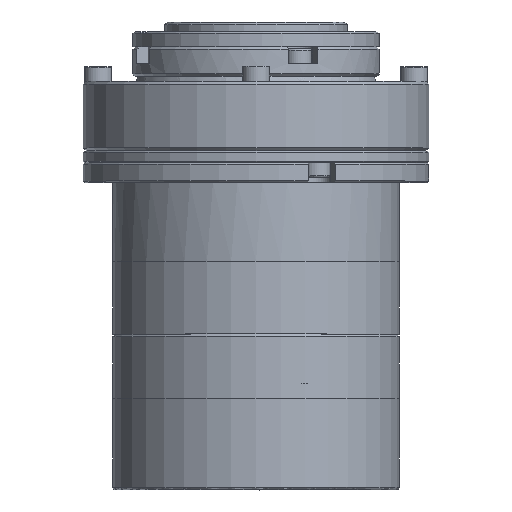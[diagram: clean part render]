
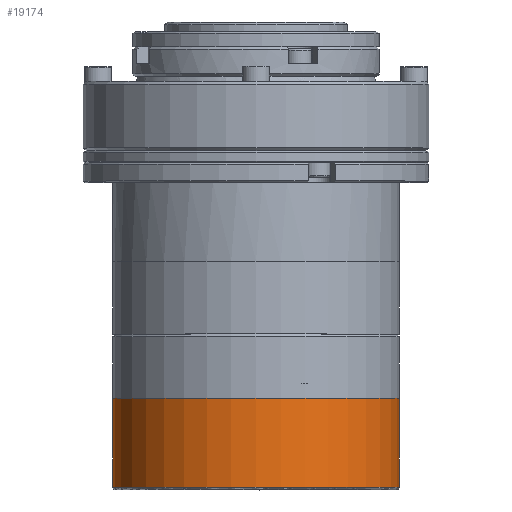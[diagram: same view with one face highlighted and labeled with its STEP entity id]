
A CAD part, top view. The second image highlights one B-rep face of the part: STEP entity #19174.
In plain terms, the highlighted cylindrical face has radius 29 mm (diameter 58 mm), a full revolution.
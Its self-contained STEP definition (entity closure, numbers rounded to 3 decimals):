
#127 = CARTESIAN_POINT ( 'NONE',  ( 0., 0., 21.794 ) ) ;
#3364 = DIRECTION ( 'NONE',  ( 0., 0., 1. ) ) ;
#3962 = DIRECTION ( 'NONE',  ( 0., 0., -1. ) ) ;
#4724 = DIRECTION ( 'NONE',  ( 1., 0., 0. ) ) ;
#5344 = EDGE_CURVE ( 'NONE', #7431, #7431, #10677, .T. ) ;
#5637 = DIRECTION ( 'NONE',  ( 1., 0., 0. ) ) ;
#5843 = CIRCLE ( 'NONE', #7404, 29. ) ;
#6166 = CYLINDRICAL_SURFACE ( 'NONE', #20087, 29. ) ;
#7404 = AXIS2_PLACEMENT_3D ( 'NONE', #18141, #3364, #5637 ) ;
#7431 = VERTEX_POINT ( 'NONE', #30391 ) ;
#7724 = DIRECTION ( 'NONE',  ( 1., 0., 0. ) ) ;
#10677 = CIRCLE ( 'NONE', #29910, 29. ) ;
#15889 = ORIENTED_EDGE ( 'NONE', *, *, #5344, .T. ) ;
#16593 = EDGE_CURVE ( 'NONE', #21305, #21305, #5843, .T. ) ;
#18141 = CARTESIAN_POINT ( 'NONE',  ( 0., 0., -18.5 ) ) ;
#19174 = ADVANCED_FACE ( 'NONE', ( #30919, #28462 ), #6166, .T. ) ;
#20087 = AXIS2_PLACEMENT_3D ( 'NONE', #127, #22566, #7724 ) ;
#21305 = VERTEX_POINT ( 'NONE', #31227 ) ;
#22566 = DIRECTION ( 'NONE',  ( 0., 0., 1. ) ) ;
#28266 = ORIENTED_EDGE ( 'NONE', *, *, #16593, .T. ) ;
#28462 = FACE_OUTER_BOUND ( 'NONE', #29664, .T. ) ;
#28688 = CARTESIAN_POINT ( 'NONE',  ( 0., 0., -0.5 ) ) ;
#29664 = EDGE_LOOP ( 'NONE', ( #28266 ) ) ;
#29910 = AXIS2_PLACEMENT_3D ( 'NONE', #28688, #3962, #4724 ) ;
#30391 = CARTESIAN_POINT ( 'NONE',  ( 29., 0., -0.5 ) ) ;
#30919 = FACE_OUTER_BOUND ( 'NONE', #30957, .T. ) ;
#30957 = EDGE_LOOP ( 'NONE', ( #15889 ) ) ;
#31227 = CARTESIAN_POINT ( 'NONE',  ( 29., 0., -18.5 ) ) ;
